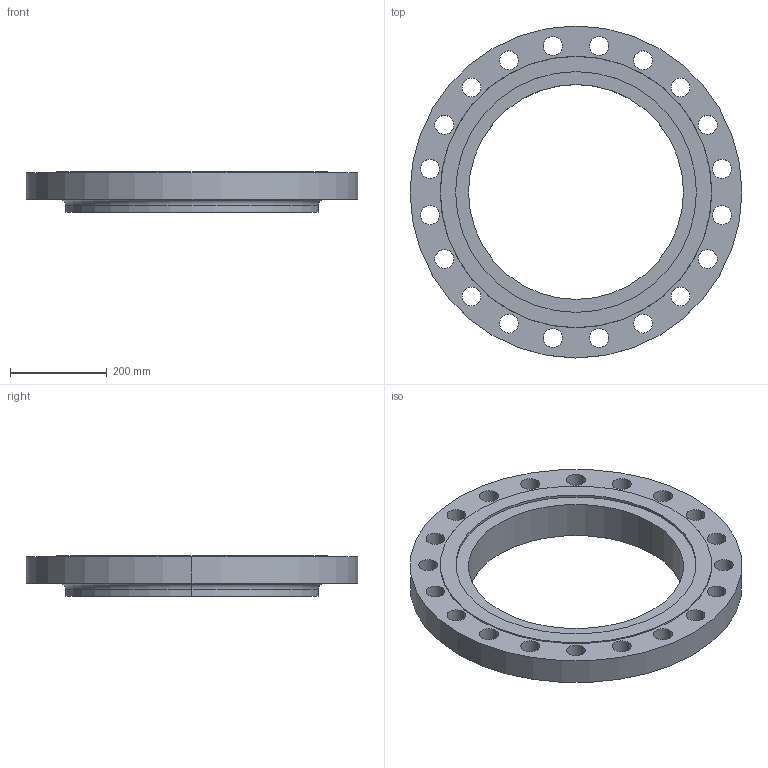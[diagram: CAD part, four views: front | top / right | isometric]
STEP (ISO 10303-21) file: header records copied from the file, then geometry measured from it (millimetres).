
FILE_DESCRIPTION (( 'STEP AP214' ), '1' );
FILE_NAME ('PN40 DN450 Type 13 - Type G Face.STEP', '2018-12-29T02:28:57', ( '' ), ( '' ), 'SwSTEP 2.0', 'SolidWorks 2019', '' );
FILE_SCHEMA (( 'AUTOMOTIVE_DESIGN' ));
Length unit declared in the file: millimetre
Products named in the file (1): PN40 DN450 Type 13 - Type G Face
Bounding box: 685 x 685 x 84 mm (x, y, z)
Volume: 12083571.8 mm3; surface area: 790248.9 mm2
Topology: 1 solids, 1 shells, 57 faces, 154 edges, 102 vertices
Faces by surface type: cylinder 48, plane 5, torus 2, cone 2
Entity records: 1974 total; most frequent: DIRECTION 374, CARTESIAN_POINT 314, ORIENTED_EDGE 308, AXIS2_PLACEMENT_3D 162, EDGE_CURVE 154, CIRCLE 104, VERTEX_POINT 102, EDGE_LOOP 102
